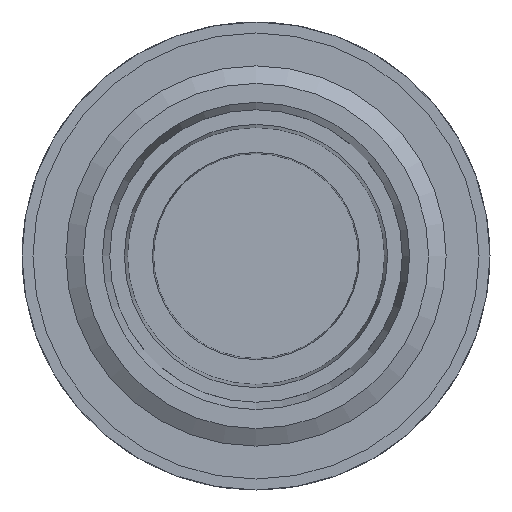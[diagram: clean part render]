
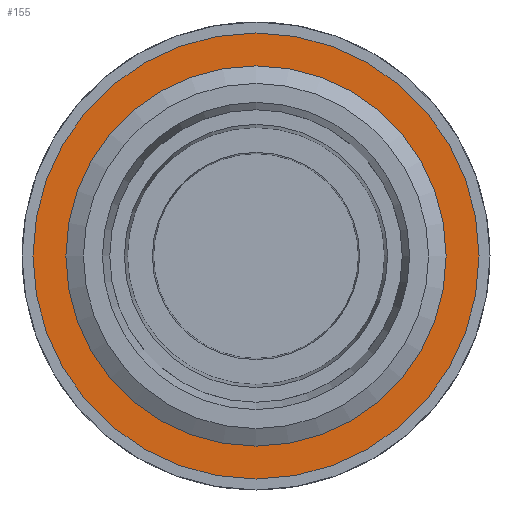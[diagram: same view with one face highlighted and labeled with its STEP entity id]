
A CAD part, left-side view. The second image highlights one B-rep face of the part: STEP entity #155.
In plain terms, the highlighted planar face has unit normal (-1, 0, 0).
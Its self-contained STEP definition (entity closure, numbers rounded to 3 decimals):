
#155 = ADVANCED_FACE( '', ( #401, #402 ), #403, .T. );
#401 = FACE_BOUND( '', #660, .T. );
#402 = FACE_OUTER_BOUND( '', #661, .T. );
#403 = PLANE( '', #662 );
#660 = EDGE_LOOP( '', ( #1302 ) );
#661 = EDGE_LOOP( '', ( #1303 ) );
#662 = AXIS2_PLACEMENT_3D( '', #1304, #1305, #1306 );
#1302 = ORIENTED_EDGE( '', *, *, #1543, .T. );
#1303 = ORIENTED_EDGE( '', *, *, #1600, .F. );
#1304 = CARTESIAN_POINT( '', ( 8.3, 15.25, 0. ) );
#1305 = DIRECTION( '', ( -1., 0., 0. ) );
#1306 = DIRECTION( '', ( 0., 0., 1. ) );
#1543 = EDGE_CURVE( '', #1890, #1890, #1891, .T. );
#1600 = EDGE_CURVE( '', #1977, #1977, #1978, .T. );
#1890 = VERTEX_POINT( '', #3515 );
#1891 = CIRCLE( '', #3516, 11.9 );
#1977 = VERTEX_POINT( '', #3967 );
#1978 = CIRCLE( '', #3968, 15.25 );
#3515 = CARTESIAN_POINT( '', ( 8.3, 0., -11.9 ) );
#3516 = AXIS2_PLACEMENT_3D( '', #4147, #4148, #4149 );
#3967 = CARTESIAN_POINT( '', ( 8.3, 0., -15.25 ) );
#3968 = AXIS2_PLACEMENT_3D( '', #4211, #4212, #4213 );
#4147 = CARTESIAN_POINT( '', ( 8.3, 0., 0. ) );
#4148 = DIRECTION( '', ( 1., 0., 0. ) );
#4149 = DIRECTION( '', ( 0., 0., -1. ) );
#4211 = CARTESIAN_POINT( '', ( 8.3, 0., 0. ) );
#4212 = DIRECTION( '', ( 1., 0., 0. ) );
#4213 = DIRECTION( '', ( 0., 0., -1. ) );
